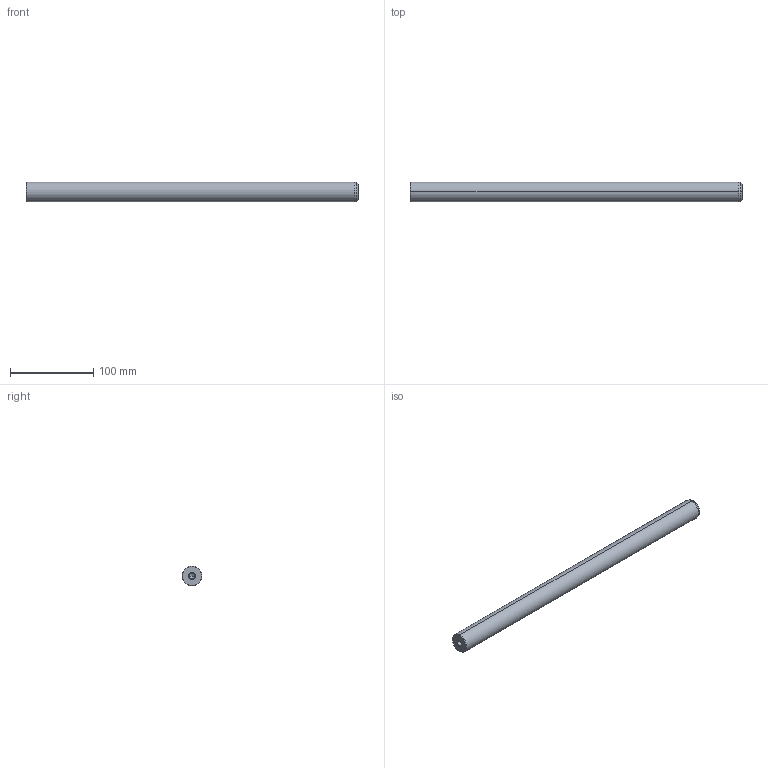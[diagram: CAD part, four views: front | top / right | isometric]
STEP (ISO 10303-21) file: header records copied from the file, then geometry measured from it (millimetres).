
FILE_DESCRIPTION(('CATIA V5 STEP Exchange'),'2;1');
FILE_NAME('C:\Users\Utente\Desktop\IO LAVORO\3D X SITO CF\X SITO\720\720-24x400.stp','2021-01-01T12:46:59+00:00',('none'),('none'),'CATIA Version 5 Release 20 GA (IN-10)','CATIA V5 STEP AP203','none');
FILE_SCHEMA(('CONFIG_CONTROL_DESIGN'));
Length unit declared in the file: millimetre
Products named in the file (1): 720-24x400
Bounding box: 400 x 24 x 24 mm (x, y, z)
Volume: 178989.9 mm3; surface area: 31899.3 mm2
Topology: 1 solids, 1 shells, 22 faces, 62 edges, 40 vertices
Faces by surface type: cone 12, cylinder 6, plane 2, torus 2
Entity records: 806 total; most frequent: CARTESIAN_POINT 229, ORIENTED_EDGE 116, DIRECTION 93, EDGE_CURVE 58, AXIS2_PLACEMENT_3D 54, VERTEX_POINT 40, CIRCLE 31, EDGE_LOOP 24
